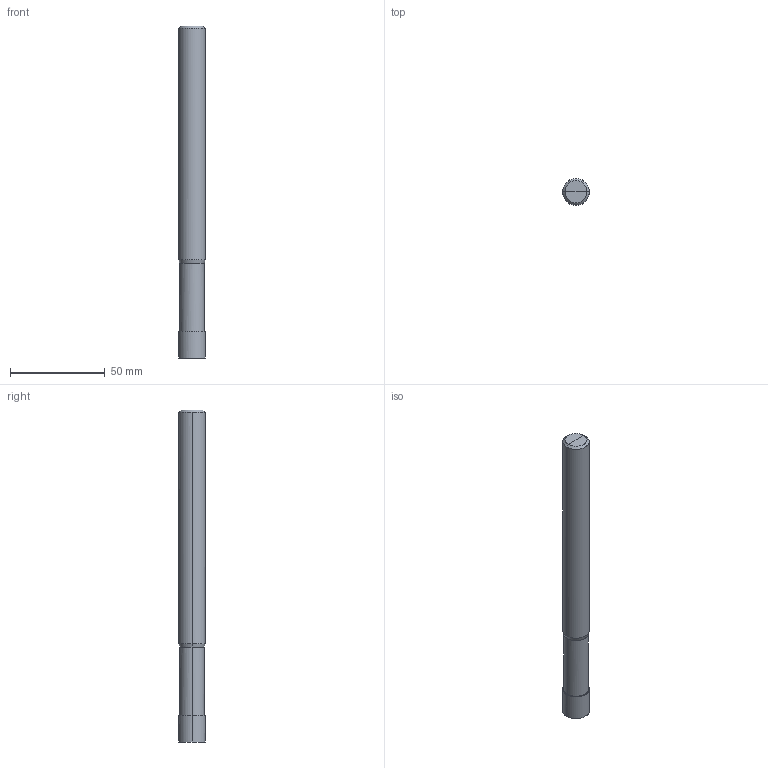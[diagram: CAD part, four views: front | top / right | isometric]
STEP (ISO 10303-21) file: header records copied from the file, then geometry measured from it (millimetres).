
FILE_DESCRIPTION(/* description */ (''),/* implementation_level */ '2;1');
FILE_NAME(/*name*/ '2131-14',/*time_stamp*/'2021-3-23T12:18:48',/*author*/ ('ISBE GmbH'),/*organization*/ ('ISBE GmbH'),/*preprocessor_version*/ 'STEP IO v1.0',/*originating_system*/ '',/*authorisation*/ '');
FILE_SCHEMA (('AUTOMOTIVE_DESIGN'));
Length unit declared in the file: millimetre
Products named in the file (1): Document
Bounding box: 14 x 13.98 x 175 mm (x, y, z)
Surface area: 8156.9 mm2 (no closed solid volume)
Topology: 0 solids, 18 shells, 18 faces, 74 edges, 68 vertices
Faces by surface type: bspline 18
Entity records: 783 total; most frequent: CARTESIAN_POINT 458, VERTEX_POINT 64, EDGE_CURVE 64, ORIENTED_EDGE 64, EDGE_LOOP 18, FACE_OUTER_BOUND 18, ADVANCED_FACE 18, DIRECTION 16
